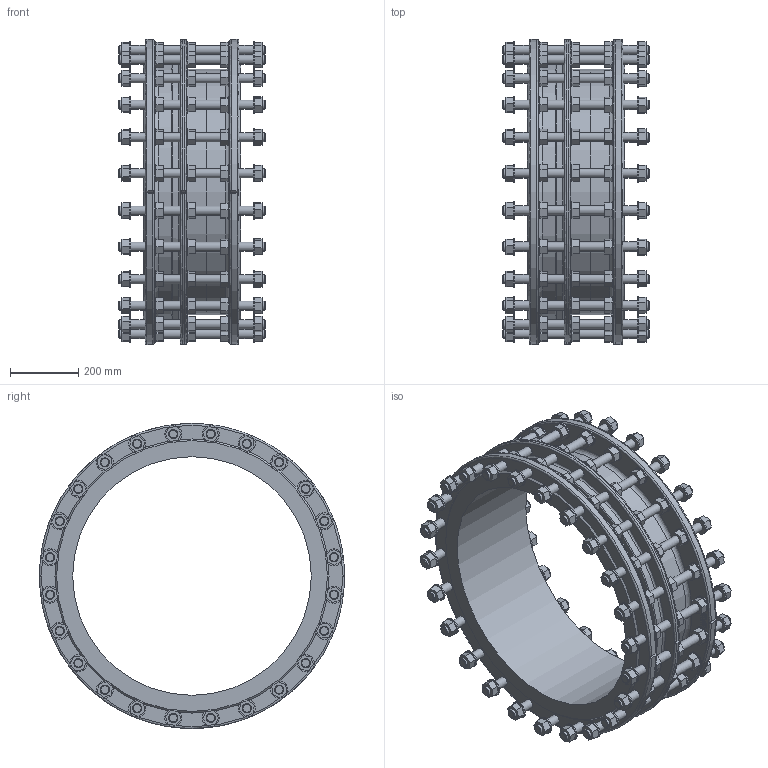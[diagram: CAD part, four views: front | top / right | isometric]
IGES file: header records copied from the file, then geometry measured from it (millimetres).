
Start section: SolidWorks IGES file using analytic representation for surfaces
Global section: file name: \\avksan2\techshare\PBM outline export from Enovia\O_265_911_DN700_0XXXXX01_L=285_REV01.igs; native system: SolidWorks 2022; preprocessor: SolidWorks 2022; author: pbm; date: 241212.092421; units: millimetre
Bounding box: 430 x 894.96 x 895 mm (x, y, z)
Surface area: 3514130.6 mm2 (no closed solid volume)
Topology: 0 solids, 0 shells, 1525 faces, 6757 edges, 6428 vertices
Faces by surface type: bspline 1188, revolution 337
